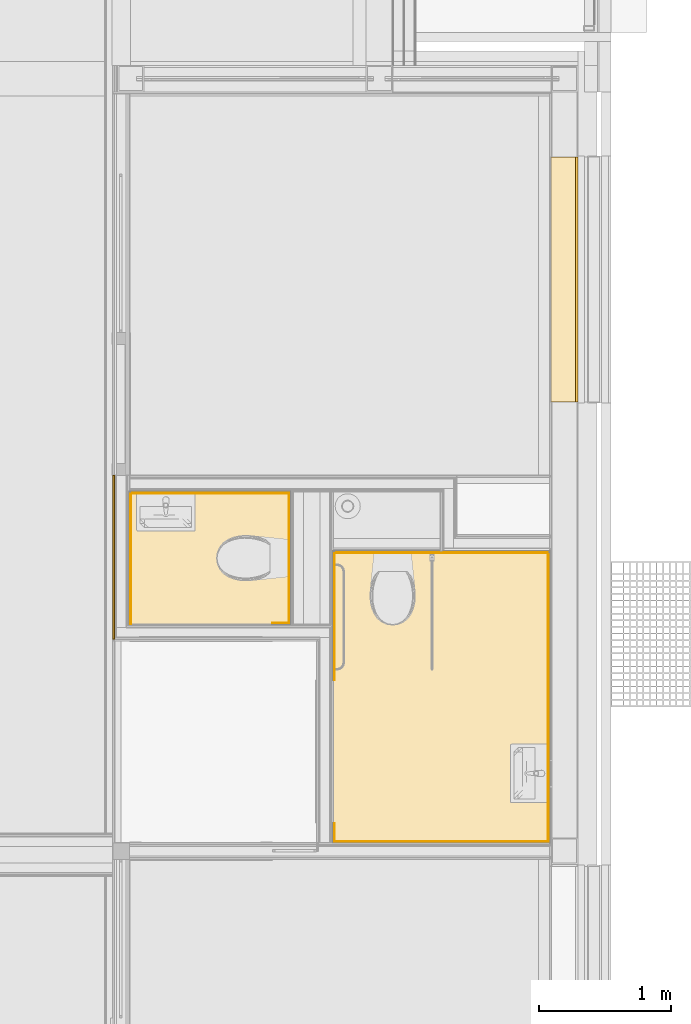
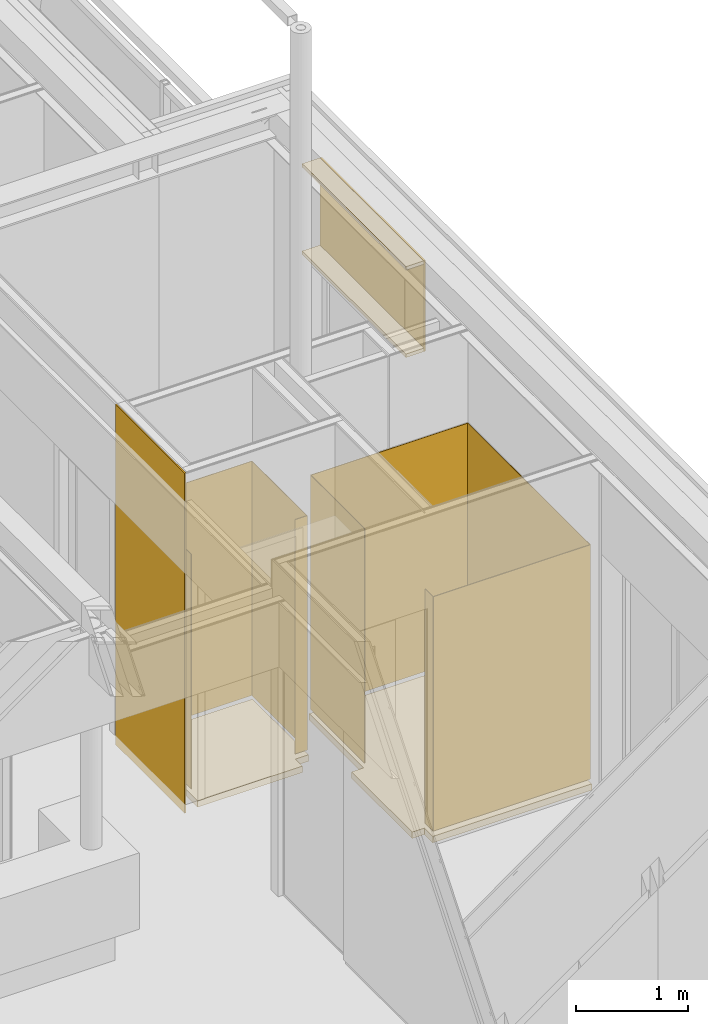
# One storey, part 118 of 165: 15 coverings, 13 elements without a shape of their own.
"""IFC2X3 building model written with IfcOpenShell, lengths in millimetres."""

from ifc_helpers import new_model, entity, si_unit, converted_unit, derived_unit, money_unit, direction, frame, origin_with_axes, place, context, subcontext, project, spatial, faceted_brep, material, type_object, element, aggregate, save


model = new_model("IFC2X3")

# Units and contexts
model_context = context("Model", 3, precision=0.01, world=origin_with_axes(), true_north=direction((0.0, 1.0)))
body_context = subcontext(model_context, "Body", "Model", "MODEL_VIEW")
ifc_project = project(units=[si_unit("LENGTHUNIT", "METRE", prefix="MILLI"), si_unit("AREAUNIT", "SQUARE_METRE"), si_unit("VOLUMEUNIT", "CUBIC_METRE"), converted_unit("PLANEANGLEUNIT", "DEGREE", entity("IfcPlaneAngleMeasure", 0.0174532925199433), si_unit("PLANEANGLEUNIT", "RADIAN"), dimensions=[0, 0, 0, 0, 0, 0, 0]), money_unit("EUR"), converted_unit("TIMEUNIT", "Year", entity("IfcTimeMeasure", 31556926.0), si_unit("TIMEUNIT", "SECOND"), dimensions=[0, 0, 1, 0, 0, 0, 0]), si_unit("MASSUNIT", "GRAM", prefix="KILO"), si_unit("THERMODYNAMICTEMPERATUREUNIT", "DEGREE_CELSIUS"), si_unit("LUMINOUSINTENSITYUNIT", "LUMEN"), si_unit("ENERGYUNIT", "JOULE", prefix="MEGA"), derived_unit("THERMALCONDUCTANCEUNIT", [(si_unit("POWERUNIT", "WATT"), 1), (si_unit("LENGTHUNIT", "METRE"), -1), (si_unit("THERMODYNAMICTEMPERATUREUNIT", "KELVIN"), -1)]), derived_unit("SPECIFICHEATCAPACITYUNIT", [(si_unit("ENERGYUNIT", "JOULE"), 1), (si_unit("MASSUNIT", "GRAM", prefix="KILO"), -1), (si_unit("THERMODYNAMICTEMPERATUREUNIT", "KELVIN"), -1)]), derived_unit("MASSDENSITYUNIT", [(si_unit("MASSUNIT", "GRAM", prefix="KILO"), 1), (si_unit("VOLUMEUNIT", "CUBIC_METRE"), -1)])], contexts=[model_context])

# Site, building, storey
site_placement = place(None, origin_with_axes())
site = spatial("IfcSite", under=ifc_project, at=site_placement, Name="Site", CompositionType="ELEMENT")
building_placement = place(site_placement, origin_with_axes())
building = spatial("IfcBuilding", under=site, at=building_placement, Name="Naam gebouw", CompositionType="ELEMENT")
storey_placement = place(building_placement, origin_with_axes())
storey = spatial("IfcBuildingStorey", under=building, at=storey_placement, Name="Begane grond", CompositionType="ELEMENT", Elevation=0.0)

# Proxy, covering
building_element_proxy_type_1 = type_object("IfcBuildingElementProxyType", Name="22 Metal stud 125 oregon pine 125", PredefinedType="NOTDEFINED")
proxy_1_placement = place(storey_placement, frame((26386.00000000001, 13649.99778166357, -100.0), z_axis=(0.0, 0.0, 1.0), x_axis=(0.0, -1.0, 0.0)))
proxy_1 = element("IfcBuildingElementProxy", 1, at=proxy_1_placement, inside=storey, type_object=building_element_proxy_type_1, Name="_Wand-x")
ifc_material_1 = material(Name="Hout - Multiplex Oregon Pine")
covering_1_placement = place(proxy_1_placement, origin_with_axes())
covering_1 = element("IfcCovering", 2, at=covering_1_placement, material=ifc_material_1, Name="Hout - Multiplex Oregon Pine", PredefinedType="NOTDEFINED", context=body_context, shape_type="Brep", body=[
    faceted_brep([(1237.499574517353, 0.0, 0.0), (0.0, 0.0, 0.0), (0.0, 12.49999999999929, 0.0), (1237.499566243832, 12.49999999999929, 0.0), (1237.499574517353, 0.0, 3700.0), (0.0, 0.0, 3700.0), (0.0, 12.49999999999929, 3700.0), (1237.499566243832, 12.49999999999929, 3700.0)], [[[0, 1, 2, 3]], [[4, 5, 1, 0]], [[2, 1, 5, 6]], [[3, 2, 6, 7]], [[3, 7, 4, 0]], [[7, 6, 5, 4]]]),
])
aggregate(proxy_1, [covering_1])

# Slab, covering
slab_type = type_object("IfcSlabType", Name="43 Zwevende dekvloer 100", PredefinedType="NOTDEFINED")
slab_1_placement = place(storey_placement, frame((28049.99915021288, 12102.50003298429, 0.0), z_axis=(0.0, 0.0, 1.0), x_axis=(1.0, 0.0, 0.0)))
slab_1 = element("IfcSlab", 3, at=slab_1_placement, inside=storey, type_object=slab_type, Name="_Vloer-x", PredefinedType="NOTDEFINED")
ifc_material_2 = material(Name="Cement - dekvloer")
covering_2_placement = place(slab_1_placement, origin_with_axes())
covering_2 = element("IfcCovering", 4, at=covering_2_placement, material=ifc_material_2, Name="Cement - dekvloer", PredefinedType="FLOORING", context=body_context, shape_type="Brep", body=[
    faceted_brep([(-125.0000861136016, 0.0, -70.0), (-125.0000861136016, 0.0, 0.0), (0.0, 0.0, 0.0), (0.0, 0.0, -70.0), (-124.9992738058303, -1080.000007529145, -70.0), (-124.9992738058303, -1080.000007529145, 0.0), (0.0008123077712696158, -1080.000007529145, 0.0), (0.0008123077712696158, -1229.999948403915, 0.0), (1636.000849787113, -1229.999948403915, 0.0), (1636.000849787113, 972.497843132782, 0.0), (-0.0005415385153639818, 972.497843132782, 0.0), (-0.0005415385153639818, 972.497843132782, -70.0), (1636.000849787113, 972.497843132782, -70.0), (1636.000849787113, -1229.999948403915, -70.0), (0.0008123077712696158, -1229.999948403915, -70.0), (0.0008123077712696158, -1080.000007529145, -70.0)], [[[0, 1, 2, 3]], [[4, 5, 1, 0]], [[2, 1, 5, 6, 7, 8, 9, 10]], [[3, 2, 10, 11]], [[3, 11, 12, 13, 14, 15, 4, 0]], [[15, 6, 5, 4]], [[14, 7, 6, 15]], [[13, 8, 7, 14]], [[12, 9, 8, 13]], [[11, 10, 9, 12]]]),
])
aggregate(slab_1, [covering_2])

slab_2_placement = place(storey_placement, frame((26510.99994761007, 12399.99922612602, 0.0), z_axis=(0.0, 0.0, 1.0), x_axis=(1.0, 0.0, 0.0)))
slab_2 = element("IfcSlab", 5, at=slab_2_placement, inside=storey, type_object=slab_type, Name="_Vloer-x", PredefinedType="NOTDEFINED")
covering_3_placement = place(slab_2_placement, origin_with_axes())
covering_3 = element("IfcCovering", 6, at=covering_3_placement, material=ifc_material_2, Name="Cement - dekvloer", PredefinedType="FLOORING", context=body_context, shape_type="Brep", body=[
    faceted_brep([(1079.999913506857, 0.0, -70.0), (1079.999913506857, 0.0, 0.0), (0.0, 0.0, 0.0), (0.0, 0.0, -70.0), (1079.999913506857, 124.9997371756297, -70.0), (1079.999913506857, 124.9997371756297, 0.0), (1213.998247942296, 124.9997371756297, 0.0), (1213.998247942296, 1124.998476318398, 0.0), (0.0, 1124.998476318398, 0.0), (0.0, 1124.998476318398, -70.0), (1213.998247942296, 1124.998476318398, -70.0), (1213.998247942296, 124.9997371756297, -70.0)], [[[0, 1, 2, 3]], [[4, 5, 1, 0]], [[2, 1, 5, 6, 7, 8]], [[3, 2, 8, 9]], [[3, 9, 10, 11, 4, 0]], [[11, 6, 5, 4]], [[10, 7, 6, 11]], [[9, 8, 7, 10]]]),
])
aggregate(slab_2, [covering_3])

# Proxy, covering
building_element_proxy_type_2 = type_object("IfcBuildingElementProxyType", Name="42 Tegelwerk 2600+ 12 x 2600", PredefinedType="NOTDEFINED")
proxy_2_placement = place(storey_placement, frame((28069.99850745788, 13054.99778100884, 0.0), z_axis=(0.0, 0.0, 1.0), x_axis=(6.618815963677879e-07, -0.999999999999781, 0.0)))
proxy_2 = element("IfcBuildingElementProxy", 7, at=proxy_2_placement, inside=storey, type_object=building_element_proxy_type_2, Name="_Wand-x")
ifc_material_3 = material(Name="Tegels - Wand")
covering_4_placement = place(proxy_2_placement, origin_with_axes())
covering_4 = element("IfcCovering", 8, at=covering_4_placement, material=ifc_material_3, Name="Tegels - Wand", PredefinedType="NOTDEFINED", context=body_context, shape_type="Brep", body=[
    faceted_brep([(-8.000005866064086, -7.999999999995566, 50.00000000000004), (-8.00000586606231, -7.999999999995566, 2600.0), (952.4976578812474, -7.999999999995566, 2600.0), (952.4976578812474, -7.999999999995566, 50.00000000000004), (-8.000009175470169, -12.99999999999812, 2600.0), (-8.000009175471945, -12.99999999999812, 50.00000000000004), (952.4976578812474, -12.99999999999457, 2600.0), (952.4976578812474, -12.99999999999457, 50.00000000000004)], [[[0, 1, 2, 3]], [[4, 1, 0, 5]], [[1, 4, 6, 2]], [[2, 6, 7, 3]], [[5, 0, 3, 7]], [[4, 5, 7, 6]]]),
])
aggregate(proxy_2, [covering_4])

proxy_3_placement = place(storey_placement, frame((28069.99985273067, 11022.50012312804, 0.0), z_axis=(0.0, 0.0, 1.0), x_axis=(6.618815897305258e-07, -0.999999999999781, 0.0)))
proxy_3 = element("IfcBuildingElementProxy", 9, at=proxy_3_placement, inside=storey, type_object=building_element_proxy_type_2, Name="_Wand-x")
covering_5_placement = place(proxy_3_placement, origin_with_axes())
covering_5 = element("IfcCovering", 10, at=covering_5_placement, material=ifc_material_3, Name="Tegels - Wand", PredefinedType="NOTDEFINED", context=body_context, shape_type="Brep", body=[
    faceted_brep([(143.0000084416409, -12.99999999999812, 2600.0), (143.0000117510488, -7.999999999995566, 2600.0), (0.0, -7.999999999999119, 2600.0), (0.0, -12.99999999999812, 2600.0), (143.0000117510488, -7.999999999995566, 50.00000000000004), (143.0000084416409, -12.99999999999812, 50.00000000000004), (0.0, -7.999999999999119, 50.00000000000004), (0.0, -12.99999999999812, 50.00000000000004)], [[[0, 1, 2, 3]], [[4, 1, 0, 5]], [[1, 4, 6, 2]], [[2, 6, 7, 3]], [[5, 0, 3, 7]], [[4, 5, 7, 6]]]),
])
aggregate(proxy_3, [covering_5])

proxy_4_placement = place(storey_placement, frame((28069.99993877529, 10892.50011055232, 0.0), z_axis=(0.0, 0.0, 1.0), x_axis=(1.0, 0.0, 0.0)))
proxy_4 = element("IfcBuildingElementProxy", 11, at=proxy_4_placement, inside=storey, type_object=building_element_proxy_type_2, Name="_Wand-x")
covering_6_placement = place(proxy_4_placement, origin_with_axes())
covering_6 = element("IfcCovering", 12, at=covering_6_placement, material=ifc_material_3, Name="Tegels - Wand", PredefinedType="NOTDEFINED", context=body_context, shape_type="Brep", body=[
    faceted_brep([(1609.00006569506, -12.9999999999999, 2600.0), (1609.00006569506, -7.999999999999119, 2600.0), (-7.999994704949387, -7.999999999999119, 2600.0), (-7.999991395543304, -12.9999999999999, 2600.0), (1609.00006569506, -7.999999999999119, 50.00000000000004), (1609.00006569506, -12.9999999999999, 50.00000000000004), (-7.999994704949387, -7.999999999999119, 50.00000000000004), (-7.999991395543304, -12.9999999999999, 50.00000000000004)], [[[0, 1, 2, 3]], [[4, 1, 0, 5]], [[1, 4, 6, 2]], [[3, 2, 6, 7]], [[5, 0, 3, 7]], [[4, 5, 7, 6]]]),
])
aggregate(proxy_4, [covering_6])

proxy_5_placement = place(storey_placement, frame((29666.0, 10892.50011055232, 0.0), z_axis=(0.0, 0.0, 1.0), x_axis=(0.0, 1.0, 0.0)))
proxy_5 = element("IfcBuildingElementProxy", 13, at=proxy_5_placement, inside=storey, type_object=building_element_proxy_type_2, Name="_Wand-x")
covering_7_placement = place(proxy_5_placement, origin_with_axes())
covering_7 = element("IfcCovering", 14, at=covering_7_placement, material=ifc_material_3, Name="Tegels - Wand", PredefinedType="NOTDEFINED", context=body_context, shape_type="Brep", body=[
    faceted_brep([(2175.497675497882, -13.00000000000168, 50.00000000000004), (2175.497675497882, -12.99999999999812, 2600.0), (-7.999999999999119, -12.99999999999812, 2600.0), (-7.999999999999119, -13.00000000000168, 50.00000000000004), (2175.497675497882, -7.999999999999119, 2600.0), (2175.497675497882, -7.999999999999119, 50.00000000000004), (-7.999999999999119, -7.999999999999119, 2600.0), (-7.999999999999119, -7.999999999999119, 50.00000000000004)], [[[0, 1, 2, 3]], [[4, 1, 0, 5]], [[1, 4, 6, 2]], [[3, 2, 6, 7]], [[5, 0, 3, 7]], [[4, 5, 7, 6]]]),
])
aggregate(proxy_5, [covering_7])

proxy_6_placement = place(storey_placement, frame((27590.99998676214, 12544.99900471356, 0.0), z_axis=(0.0, 0.0, 1.0), x_axis=(0.999999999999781, 6.618815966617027e-07, 0.0)))
proxy_6 = element("IfcBuildingElementProxy", 15, at=proxy_6_placement, inside=storey, type_object=building_element_proxy_type_2, Name="_Wand-x")
covering_8_placement = place(proxy_6_placement, origin_with_axes())
covering_8 = element("IfcCovering", 16, at=covering_8_placement, material=ifc_material_3, Name="Tegels - Wand", PredefinedType="NOTDEFINED", context=body_context, shape_type="Brep", body=[
    faceted_brep([(126.9981590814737, -13.00008405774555, 2600.0), (126.9981623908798, -8.000084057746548, 2600.0), (-5.295053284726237e-06, -7.999999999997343, 2600.0), (-8.604459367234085e-06, -12.99999999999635, 2600.0), (126.9981623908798, -8.000084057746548, 50.00000000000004), (126.9981590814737, -13.00008405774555, 50.00000000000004), (-5.295053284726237e-06, -7.999999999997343, 50.00000000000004), (-8.604459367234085e-06, -12.99999999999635, 50.00000000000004)], [[[0, 1, 2, 3]], [[4, 1, 0, 5]], [[1, 4, 6, 2]], [[2, 6, 7, 3]], [[5, 0, 3, 7]], [[4, 5, 7, 6]]]),
])
aggregate(proxy_6, [covering_8])

proxy_7_placement = place(storey_placement, frame((27704.99814997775, 12544.99908016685, 0.0), z_axis=(0.0, 0.0, 1.0), x_axis=(4.734246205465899e-08, 0.9999999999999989, 0.0)))
proxy_7 = element("IfcBuildingElementProxy", 17, at=proxy_7_placement, inside=storey, type_object=building_element_proxy_type_2, Name="_Wand-x")
covering_9_placement = place(proxy_7_placement, origin_with_axes())
covering_9 = element("IfcCovering", 18, at=covering_9_placement, material=ifc_material_3, Name="Tegels - Wand", PredefinedType="NOTDEFINED", context=body_context, shape_type="Brep", body=[
    faceted_brep([(972.9989823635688, -12.99995393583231, 50.00000000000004), (972.9989823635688, -12.99995393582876, 2600.0), (-8.000074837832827, -13.00000037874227, 2600.0), (-8.000074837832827, -13.00000037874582, 50.00000000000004), (972.9989809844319, -7.999953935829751, 2600.0), (972.9989809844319, -7.999953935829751, 50.00000000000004), (-8.00007507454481, -8.000000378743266, 2600.0), (-8.00007507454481, -8.000000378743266, 50.00000000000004)], [[[0, 1, 2, 3]], [[4, 1, 0, 5]], [[1, 4, 6, 2]], [[3, 2, 6, 7]], [[5, 0, 3, 7]], [[4, 5, 7, 6]]]),
])
aggregate(proxy_7, [covering_9])

proxy_8_placement = place(storey_placement, frame((27704.99819542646, 13504.99805447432, 0.0), z_axis=(0.0, 0.0, 1.0), x_axis=(-0.9999999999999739, -2.284850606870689e-07, 0.0)))
proxy_8 = element("IfcBuildingElementProxy", 19, at=proxy_8_placement, inside=storey, type_object=building_element_proxy_type_2, Name="_Wand-x")
covering_10_placement = place(proxy_8_placement, origin_with_axes())
covering_10 = element("IfcCovering", 20, at=covering_10_placement, material=ifc_material_3, Name="Tegels - Wand", PredefinedType="NOTDEFINED", context=body_context, shape_type="Brep", body=[
    faceted_brep([(1186.998196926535, -12.9999999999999, 50.00000000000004), (1186.998196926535, -12.9999999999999, 2600.0), (-7.99995752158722, -12.99999999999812, 2600.0), (-7.99995752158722, -12.99999999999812, 50.00000000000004), (1186.998198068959, -8.000000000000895, 2600.0), (1186.998198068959, -8.000000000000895, 50.00000000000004), (-7.999956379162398, -7.999999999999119, 2600.0), (-7.999956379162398, -7.999999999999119, 50.00000000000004)], [[[0, 1, 2, 3]], [[4, 1, 0, 5]], [[1, 4, 6, 2]], [[3, 2, 6, 7]], [[5, 0, 3, 7]], [[4, 5, 7, 6]]]),
])
aggregate(proxy_8, [covering_10])

proxy_9_placement = place(storey_placement, frame((26531.00000000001, 13504.99778623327, 0.0), z_axis=(0.0, 0.0, 1.0), x_axis=(0.0, -1.0, 0.0)))
proxy_9 = element("IfcBuildingElementProxy", 21, at=proxy_9_placement, inside=storey, type_object=building_element_proxy_type_2, Name="_Wand-x")
covering_11_placement = place(proxy_9_placement, origin_with_axes())
covering_11 = element("IfcCovering", 22, at=covering_11_placement, material=ifc_material_3, Name="Tegels - Wand", PredefinedType="NOTDEFINED", context=body_context, shape_type="Brep", body=[
    faceted_brep([(-7.999998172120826, -7.999999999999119, 50.00000000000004), (-7.999998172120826, -7.999999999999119, 2600.0), (979.9994963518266, -7.999999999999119, 2600.0), (979.9994963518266, -7.999999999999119, 50.00000000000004), (-7.999997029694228, -12.99999999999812, 2600.0), (-7.999997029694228, -13.00000000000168, 50.00000000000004), (979.9994963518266, -13.00000000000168, 2600.0), (979.9994963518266, -13.00000000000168, 50.00000000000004)], [[[0, 1, 2, 3]], [[4, 1, 0, 5]], [[1, 4, 6, 2]], [[2, 6, 7, 3]], [[5, 0, 3, 7]], [[4, 5, 7, 6]]]),
])
aggregate(proxy_9, [covering_11])

proxy_10_placement = place(storey_placement, frame((29666.0, 13054.99778157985, 0.0), z_axis=(0.0, 0.0, 1.0), x_axis=(-1.0, -3.57774182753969e-10, 0.0)))
proxy_10 = element("IfcBuildingElementProxy", 23, at=proxy_10_placement, inside=storey, type_object=building_element_proxy_type_2, Name="_Wand-x")
covering_12_placement = place(proxy_10_placement, origin_with_axes())
covering_12 = element("IfcCovering", 24, at=covering_12_placement, material=ifc_material_3, Name="Tegels - Wand", PredefinedType="NOTDEFINED", context=body_context, shape_type="Brep", body=[
    faceted_brep([(1609.001505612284, -13.00000057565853, 50.00000000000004), (1609.001505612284, -13.00000057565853, 2600.0), (-8.000000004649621, -12.99999999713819, 2600.0), (-8.000000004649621, -12.99999999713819, 50.00000000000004), (1609.001502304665, -8.00000057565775, 2600.0), (1609.001502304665, -8.000000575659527, 50.00000000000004), (-8.000000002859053, -7.999999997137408, 2600.0), (-8.000000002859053, -7.999999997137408, 50.00000000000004)], [[[0, 1, 2, 3]], [[4, 1, 0, 5]], [[1, 4, 6, 2]], [[3, 2, 6, 7]], [[5, 0, 3, 7]], [[4, 5, 7, 6]]]),
])
aggregate(proxy_10, [covering_12])

# Beam, coverings
beam_type = type_object("IfcBeamType", Name="31 HSB boven kozijnen 214 x 1000", PredefinedType="BEAM")
beam_placement = place(storey_placement, frame((29686.0, 16055.99778166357, 2600.000000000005), z_axis=(0.0, 0.0, 1.0), x_axis=(-1.0, 0.0, 0.0)))
beam = element("IfcBeam", 25, at=beam_placement, inside=storey, type_object=beam_type, Name="28_Balk-x", ObjectType="BEAM")
ifc_material_4 = material(Name="Hout - Vloer")
covering_13_placement = place(beam_placement, origin_with_axes())
covering_13 = element("IfcCovering", 26, at=covering_13_placement, material=ifc_material_4, Name="Hout - Vloer", PredefinedType="NOTDEFINED", context=body_context, shape_type="Brep", body=[
    faceted_brep([(-196.000001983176, 1850.000000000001, 999.9999999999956), (-196.000001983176, 1850.000000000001, 961.9999910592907), (-196.000001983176, 0.0, 961.9999910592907), (-196.000001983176, 0.0, 999.9999999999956), (-11.99999006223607, 1850.000000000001, 999.9999999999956), (-11.99999006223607, 1850.000000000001, 962.0000059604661), (-11.99999006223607, 0.0, 962.0000059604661), (-11.99999006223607, 0.0, 999.9999999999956)], [[[0, 1, 2, 3]], [[0, 4, 5, 1]], [[1, 5, 6, 2]], [[3, 2, 6, 7]], [[4, 0, 3, 7]], [[5, 4, 7, 6]]]),
])
covering_14_placement = place(beam_placement, origin_with_axes())
covering_14 = element("IfcCovering", 27, at=covering_14_placement, material=ifc_material_4, Name="Hout - Vloer", PredefinedType="NOTDEFINED", context=body_context, shape_type="Brep", body=[
    faceted_brep([(-196.0000083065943, 1850.000000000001, 49.99999999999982), (-196.0000083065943, 1850.000000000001, 12.00000596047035), (-196.0000083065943, 0.0, 12.00000596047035), (-196.0000083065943, 0.0, 49.99999999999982), (-11.9999963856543, 1850.000000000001, 49.99999999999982), (-11.9999963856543, 1850.000000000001, 12.00000596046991), (-11.9999963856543, 0.0, 12.00000596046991), (-11.9999963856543, 0.0, 49.99999999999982)], [[[0, 1, 2, 3]], [[0, 4, 5, 1]], [[1, 5, 6, 2]], [[3, 2, 6, 7]], [[4, 0, 3, 7]], [[5, 4, 7, 6]]]),
])
ifc_material_5 = material(Name="Hout - Multiplex")
covering_15_placement = place(beam_placement, origin_with_axes())
covering_15 = element("IfcCovering", 28, at=covering_15_placement, material=ifc_material_5, Name="Hout - Multiplex", PredefinedType="NOTDEFINED", context=body_context, shape_type="Brep", body=[
    faceted_brep([(-214.0000025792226, 1850.000000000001, 999.9999999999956), (-214.0000025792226, 1850.000000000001, 11.99999999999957), (-214.0000025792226, 0.0, 11.99999999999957), (-214.0000025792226, 0.0, 999.9999999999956), (-196.000001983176, 1850.000000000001, 999.9999999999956), (-196.000001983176, 1850.000000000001, 11.99999999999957), (-196.000001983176, 0.0, 11.99999999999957), (-196.000001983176, 0.0, 999.9999999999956)], [[[0, 1, 2, 3]], [[0, 4, 5, 1]], [[1, 5, 6, 2]], [[3, 2, 6, 7]], [[4, 0, 3, 7]], [[5, 4, 7, 6]]]),
])
aggregate(beam, [covering_13, covering_14, covering_15])

save(model, "model.ifc")
